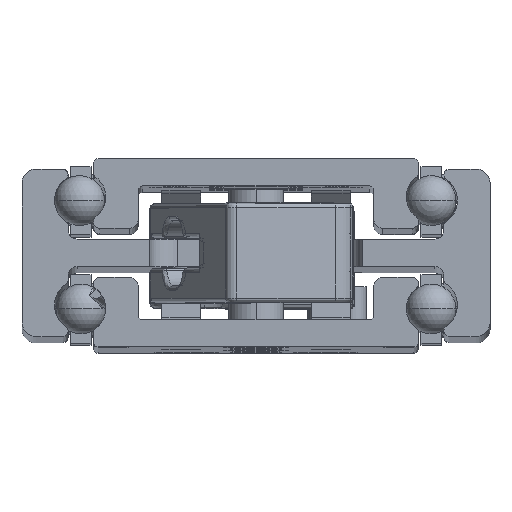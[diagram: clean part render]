
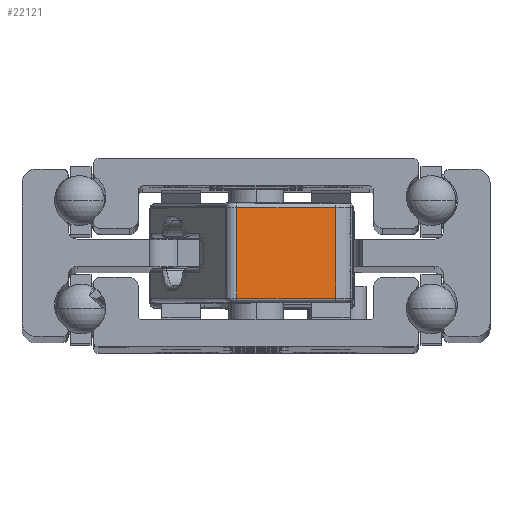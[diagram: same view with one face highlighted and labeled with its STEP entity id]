
A CAD part, top view. The second image highlights one B-rep face of the part: STEP entity #22121.
In plain terms, the highlighted planar face has unit normal (0.225, 0, 0.974) as drawn and (-1, 0, 0) by its records, which use the part's own axes.
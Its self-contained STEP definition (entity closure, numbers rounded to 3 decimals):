
#143 = EDGE_CURVE ( 'NONE', #240, #27612, #26243, .T. ) ;
#240 = VERTEX_POINT ( 'NONE', #15664 ) ;
#1009 = ORIENTED_EDGE ( 'NONE', *, *, #143, .T. ) ;
#1526 = LINE ( 'NONE', #1951, #27013 ) ;
#1951 = CARTESIAN_POINT ( 'NONE',  ( -37., -3., 5.4 ) ) ;
#2027 = EDGE_CURVE ( 'NONE', #23843, #6450, #19681, .T. ) ;
#3122 = CARTESIAN_POINT ( 'NONE',  ( -37., 8., 4.9 ) ) ;
#3269 = CARTESIAN_POINT ( 'NONE',  ( -37., 8., 5.4 ) ) ;
#4519 = DIRECTION ( 'NONE',  ( 0., -1., 0. ) ) ;
#5453 = LINE ( 'NONE', #3269, #23076 ) ;
#6335 = DIRECTION ( 'NONE',  ( 1., 0., 0. ) ) ;
#6450 = VERTEX_POINT ( 'NONE', #3122 ) ;
#8656 = DIRECTION ( 'NONE',  ( 0., 1., 0. ) ) ;
#9955 = EDGE_CURVE ( 'NONE', #27612, #23843, #1526, .T. ) ;
#10003 = ORIENTED_EDGE ( 'NONE', *, *, #9955, .T. ) ;
#10575 = EDGE_LOOP ( 'NONE', ( #10003, #17968, #18169, #1009 ) ) ;
#10815 = CARTESIAN_POINT ( 'NONE',  ( -37., -3., -4.9 ) ) ;
#11321 = CARTESIAN_POINT ( 'NONE',  ( -37., -3., 4.9 ) ) ;
#12406 = DIRECTION ( 'NONE',  ( 0., 0., 1. ) ) ;
#12674 = VECTOR ( 'NONE', #4519, 1000. ) ;
#13115 = DIRECTION ( 'NONE',  ( 0., 0., -1. ) ) ;
#15371 = CARTESIAN_POINT ( 'NONE',  ( -37., -4., -4.9 ) ) ;
#15470 = FACE_OUTER_BOUND ( 'NONE', #10575, .T. ) ;
#15612 = CARTESIAN_POINT ( 'NONE',  ( -37., 8., 4.9 ) ) ;
#15617 = PLANE ( 'NONE',  #26256 ) ;
#15664 = CARTESIAN_POINT ( 'NONE',  ( -37., 8., -4.9 ) ) ;
#17968 = ORIENTED_EDGE ( 'NONE', *, *, #2027, .T. ) ;
#18169 = ORIENTED_EDGE ( 'NONE', *, *, #24511, .T. ) ;
#19276 = VECTOR ( 'NONE', #8656, 1000. ) ;
#19681 = LINE ( 'NONE', #15612, #19276 ) ;
#20124 = DIRECTION ( 'NONE',  ( 0., 1., 0. ) ) ;
#22121 = ADVANCED_FACE ( 'NONE', ( #15470 ), #15617, .F. ) ;
#23076 = VECTOR ( 'NONE', #13115, 1000. ) ;
#23843 = VERTEX_POINT ( 'NONE', #11321 ) ;
#24461 = CARTESIAN_POINT ( 'NONE',  ( -37., -4., 5.4 ) ) ;
#24511 = EDGE_CURVE ( 'NONE', #6450, #240, #5453, .T. ) ;
#26243 = LINE ( 'NONE', #15371, #12674 ) ;
#26256 = AXIS2_PLACEMENT_3D ( 'NONE', #24461, #6335, #20124 ) ;
#27013 = VECTOR ( 'NONE', #12406, 1000. ) ;
#27612 = VERTEX_POINT ( 'NONE', #10815 ) ;
